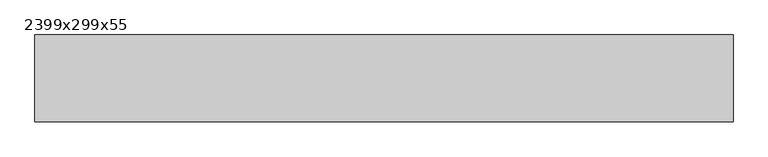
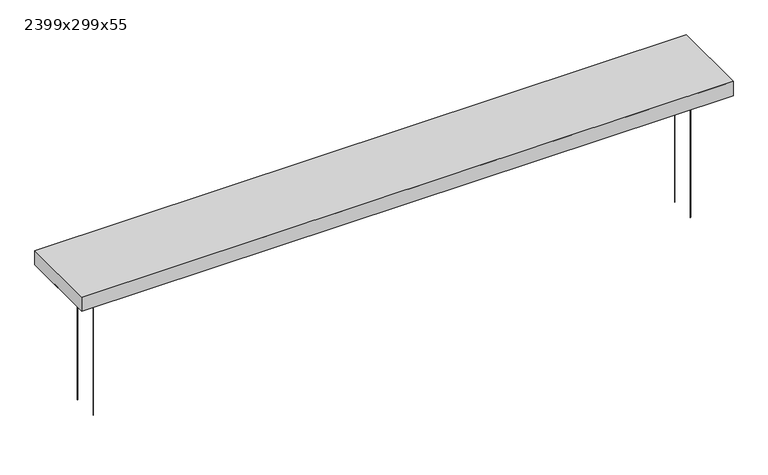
"""IFC4 building model written with IfcOpenShell, lengths in millimetres: proxy geometry, Texaa_Plafond respirant_Strato_Panneaux absorbant : 2399x299x55."""

from ifc_helpers import new_model, si_unit, point, frame, frame_2d, origin, origin_with_axes, place, context, project, spatial, polyline, circle_curve, trimmed, segment, composite_curve, outline, extrude, faceted_brep, source, transform, mapped, element, save


def proxy_2399x299x55_9caddc88(model_context):
    return source(origin(), model_context, "Body", "SolidModel", [
        extrude(outline(composite_curve([segment(trimmed(circle_curve(frame_2d((-1099.5, -49.5)), 0.75), [point((-1100.25, -49.5))], [point((-1098.75, -49.5))], False, "CARTESIAN"), True, "CONTINUOUS"), segment(trimmed(circle_curve(frame_2d((-1099.5, -49.5)), 0.75), [point((-1098.75, -49.5))], [point((-1100.25, -49.5))], False, "CARTESIAN"), True, "CONTINUOUS")], self_intersect=False)), origin_with_axes(), (0.0, 0.0, 1.0), 500.0),
        extrude(outline(composite_curve([segment(trimmed(circle_curve(frame_2d((1099.5, -49.5)), 0.75), [point((1098.75, -49.5))], [point((1100.25, -49.5))], False, "CARTESIAN"), True, "CONTINUOUS"), segment(trimmed(circle_curve(frame_2d((1099.5, -49.5)), 0.75), [point((1100.25, -49.5))], [point((1098.75, -49.5))], False, "CARTESIAN"), True, "CONTINUOUS")], self_intersect=False)), origin_with_axes(), (0.0, 0.0, 1.0), 500.0),
        extrude(outline(composite_curve([segment(trimmed(circle_curve(frame_2d((1099.5, 49.5)), 0.75), [point((1098.75, 49.5))], [point((1100.25, 49.5))], False, "CARTESIAN"), True, "CONTINUOUS"), segment(trimmed(circle_curve(frame_2d((1099.5, 49.5)), 0.75), [point((1100.25, 49.5))], [point((1098.75, 49.5))], False, "CARTESIAN"), True, "CONTINUOUS")], self_intersect=False)), origin_with_axes(), (0.0, 0.0, 1.0), 500.0),
        extrude(outline(composite_curve([segment(trimmed(circle_curve(frame_2d((-1099.5, 49.5)), 0.75), [point((-1100.25, 49.5))], [point((-1098.75, 49.5))], False, "CARTESIAN"), True, "CONTINUOUS"), segment(trimmed(circle_curve(frame_2d((-1099.5, 49.5)), 0.75), [point((-1098.75, 49.5))], [point((-1100.25, 49.5))], False, "CARTESIAN"), True, "CONTINUOUS")], self_intersect=False)), origin_with_axes(), (0.0, 0.0, 1.0), 500.0),
        extrude(outline(polyline([(-1198.5, -148.5), (-1198.5, 148.5), (1198.5, 148.5), (1198.5, -148.5), (-1198.5, -148.5)])), frame((0.0, 0.0, 501.0), z_axis=(0.0, 0.0, 1.0), x_axis=(1.0, 0.0, 0.0)), (0.0, 0.0, 1.0), 53.0),
        faceted_brep([(-1199.5, -149.5, 555.0), (1199.5, -149.5, 555.0), (1199.5, 149.5, 555.0), (-1199.5, 149.5, 555.0), (-1199.5, -149.5, 500.0), (-1199.5, 149.5, 500.0), (1199.5, 149.5, 500.0), (1199.5, -149.5, 500.0), (-1149.5, 99.5, 500.0), (-1149.5, -99.5, 500.0), (1149.5, -99.5, 500.0), (1149.5, 99.5, 500.0), (1149.5, 99.5, 501.0), (-1149.5, 99.5, 501.0), (1149.5, -99.5, 501.0), (-1149.5, -99.5, 501.0), (-1198.5, -148.5, 554.0), (-1198.5, 148.5, 554.0), (1198.5, 148.5, 554.0), (1198.5, -148.5, 554.0), (-1198.5, -148.5, 501.0), (1198.5, -148.5, 501.0), (1198.5, 148.5, 501.0), (-1198.5, 148.5, 501.0)], [[[0, 1, 2, 3]], [[4, 5, 6, 7], [8, 9, 10, 11]], [[3, 5, 4, 0]], [[2, 6, 5, 3]], [[1, 7, 6, 2]], [[0, 4, 7, 1]], [[8, 11, 12, 13]], [[11, 10, 14, 12]], [[10, 9, 15, 14]], [[13, 15, 9, 8]], [[16, 17, 18, 19]], [[20, 21, 22, 23], [12, 14, 15, 13]], [[16, 20, 23, 17]], [[17, 23, 22, 18]], [[18, 22, 21, 19]], [[19, 21, 20, 16]]]),
    ])


if __name__ == "__main__":
    model = new_model("IFC4")
    model_context = context("Model", 3, world=origin())
    ifc_project = project(units=[si_unit("LENGTHUNIT", "METRE", prefix="MILLI")], contexts=[model_context])
    site = spatial("IfcSite", under=ifc_project)
    building = spatial("IfcBuilding", under=site)
    placement = place(None, origin())
    proxy_2399x299x55_shape = proxy_2399x299x55_9caddc88(model_context)
    element("IfcBuildingElementProxy", 1, Name="Texaa_Plafond respirant_Strato_Panneaux absorbant : 2399x299x55", ObjectType="Texaa_Plafond respirant_Strato_Panneaux absorbant : 2399x299x55", at=placement, inside=building, context=model_context, shape_type="MappedRepresentation", body=[
        mapped(proxy_2399x299x55_shape, transform((0.0, 0.0, 0.0), x_axis=(1.0, 0.0, 0.0), y_axis=(0.0, 1.0, 0.0), z_axis=(0.0, 0.0, 1.0))),
    ])
    save(model, "model.ifc")
